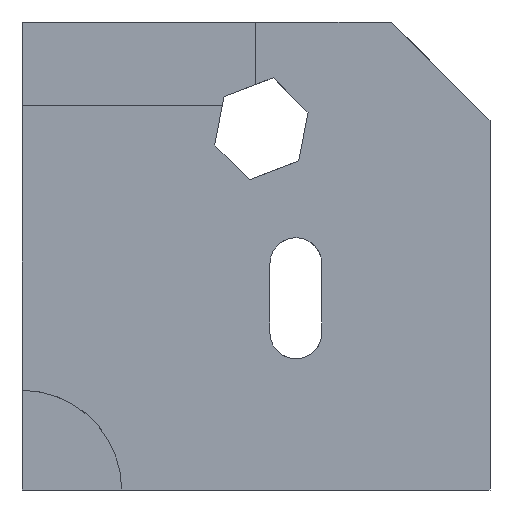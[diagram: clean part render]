
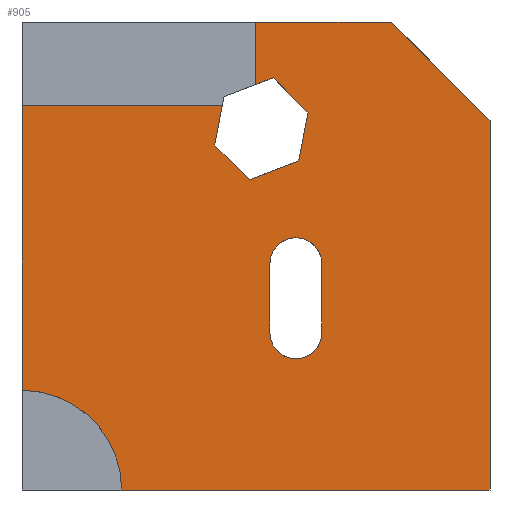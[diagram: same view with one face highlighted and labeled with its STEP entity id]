
A CAD part, left-side view. The second image highlights one B-rep face of the part: STEP entity #905.
In plain terms, the highlighted planar face has unit normal (-1, 0, 0).
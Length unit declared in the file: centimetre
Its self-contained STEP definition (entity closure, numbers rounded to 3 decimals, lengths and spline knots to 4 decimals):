
#25 = PLANE ( 'NONE',  #35 ) ;
#35 = AXIS2_PLACEMENT_3D ( 'NONE', #565, #1661, #429 ) ;
#56 = LINE ( 'NONE', #1016, #941 ) ;
#60 = AXIS2_PLACEMENT_3D ( 'NONE', #189, #1671, #835 ) ;
#66 = EDGE_CURVE ( 'NONE', #1398, #1665, #1485, .T. ) ;
#70 = ORIENTED_EDGE ( 'NONE', *, *, #1266, .T. ) ;
#75 = EDGE_CURVE ( 'NONE', #1755, #416, #791, .T. ) ;
#85 = DIRECTION ( 'NONE',  ( 0., 0.187, -0.982 ) ) ;
#94 = VERTEX_POINT ( 'NONE', #227 ) ;
#100 = EDGE_CURVE ( 'NONE', #1516, #1138, #1117, .T. ) ;
#107 = CARTESIAN_POINT ( 'NONE',  ( 0., 0., 0. ) ) ;
#112 = DIRECTION ( 'NONE',  ( 0., -1., 0. ) ) ;
#124 = DIRECTION ( 'NONE',  ( 0., -0.707, -0.707 ) ) ;
#126 = EDGE_CURVE ( 'NONE', #416, #483, #802, .T. ) ;
#182 = ORIENTED_EDGE ( 'NONE', *, *, #75, .F. ) ;
#189 = CARTESIAN_POINT ( 'NONE',  ( 0., 414.7637, 335.3385 ) ) ;
#198 = CARTESIAN_POINT ( 'NONE',  ( 0., 359.3868, 335.3385 ) ) ;
#218 = ORIENTED_EDGE ( 'NONE', *, *, #1700, .F. ) ;
#221 = VECTOR ( 'NONE', #1380, 100. ) ;
#227 = CARTESIAN_POINT ( 'NONE',  ( 0., 1000., 821.3095 ) ) ;
#258 = ORIENTED_EDGE ( 'NONE', *, *, #1212, .T. ) ;
#259 = VERTEX_POINT ( 'NONE', #708 ) ;
#261 = DIRECTION ( 'NONE',  ( 0., -1., 0. ) ) ;
#271 = CARTESIAN_POINT ( 'NONE',  ( 0., 501.1624, 866.4709 ) ) ;
#283 = ORIENTED_EDGE ( 'NONE', *, *, #324, .T. ) ;
#291 = FACE_BOUND ( 'NONE', #725, .T. ) ;
#310 = CARTESIAN_POINT ( 'NONE',  ( 0., 408.5966, 703. ) ) ;
#311 = VECTOR ( 'NONE', #529, 100. ) ;
#324 = EDGE_CURVE ( 'NONE', #662, #1516, #1004, .T. ) ;
#358 = EDGE_CURVE ( 'NONE', #759, #1721, #365, .T. ) ;
#365 = LINE ( 'NONE', #922, #1119 ) ;
#372 = DIRECTION ( 'NONE',  ( 1., 0., 0. ) ) ;
#399 = DIRECTION ( 'NONE',  ( 0., 0., 1. ) ) ;
#401 = LINE ( 'NONE', #1749, #1050 ) ;
#412 = ORIENTED_EDGE ( 'NONE', *, *, #1488, .T. ) ;
#416 = VERTEX_POINT ( 'NONE', #633 ) ;
#423 = ORIENTED_EDGE ( 'NONE', *, *, #1411, .T. ) ;
#424 = VECTOR ( 'NONE', #848, 100. ) ;
#426 = VECTOR ( 'NONE', #85, 100. ) ;
#429 = DIRECTION ( 'NONE',  ( 0., 0., -1. ) ) ;
#466 = CARTESIAN_POINT ( 'NONE',  ( 0., 572.006, 821.3095 ) ) ;
#474 = ORIENTED_EDGE ( 'NONE', *, *, #126, .F. ) ;
#483 = VERTEX_POINT ( 'NONE', #1416 ) ;
#499 = DIRECTION ( 'NONE',  ( -1., 0., 0. ) ) ;
#516 = LINE ( 'NONE', #873, #855 ) ;
#529 = DIRECTION ( 'NONE',  ( 0., 0., 1. ) ) ;
#565 = CARTESIAN_POINT ( 'NONE',  ( 0., 1000., 1000. ) ) ;
#591 = CARTESIAN_POINT ( 'NONE',  ( 0., 470.1405, 483.6695 ) ) ;
#598 = CARTESIAN_POINT ( 'NONE',  ( 0., 501.1624, 1000. ) ) ;
#604 = EDGE_CURVE ( 'NONE', #1721, #1578, #516, .T. ) ;
#615 = DIRECTION ( 'NONE',  ( 0., 0.707, 0.707 ) ) ;
#617 = CARTESIAN_POINT ( 'NONE',  ( 0., 470.1405, 483.6695 ) ) ;
#633 = CARTESIAN_POINT ( 'NONE',  ( 0., 588.0385, 737.207 ) ) ;
#636 = ORIENTED_EDGE ( 'NONE', *, *, #1545, .T. ) ;
#639 = DIRECTION ( 'NONE',  ( 0., 0.934, -0.357 ) ) ;
#641 = DIRECTION ( 'NONE',  ( 0., 0., 1. ) ) ;
#650 = CARTESIAN_POINT ( 'NONE',  ( 0., 414.7637, 335.3385 ) ) ;
#662 = VERTEX_POINT ( 'NONE', #815 ) ;
#663 = ORIENTED_EDGE ( 'NONE', *, *, #1105, .F. ) ;
#672 = CARTESIAN_POINT ( 'NONE',  ( 0., 359.3868, 335.3385 ) ) ;
#708 = CARTESIAN_POINT ( 'NONE',  ( 0., 786.9848, 0. ) ) ;
#716 = AXIS2_PLACEMENT_3D ( 'NONE', #1292, #499, #1042 ) ;
#722 = CARTESIAN_POINT ( 'NONE',  ( 0., 1000., 1000. ) ) ;
#723 = VECTOR ( 'NONE', #1296, 100. ) ;
#725 = EDGE_LOOP ( 'NONE', ( #283, #1392, #1277, #258, #636 ) ) ;
#738 = AXIS2_PLACEMENT_3D ( 'NONE', #1605, #372, #399 ) ;
#759 = VERTEX_POINT ( 'NONE', #1217 ) ;
#784 = EDGE_LOOP ( 'NONE', ( #182, #423, #70, #1509, #412, #663, #1334, #1159, #1567, #1008, #1037, #218, #1693, #474 ) ) ;
#791 = LINE ( 'NONE', #1759, #426 ) ;
#802 = LINE ( 'NONE', #1363, #880 ) ;
#805 = CARTESIAN_POINT ( 'NONE',  ( 0., 1000., 0. ) ) ;
#814 = CARTESIAN_POINT ( 'NONE',  ( 0., 470.1405, 335.3385 ) ) ;
#815 = CARTESIAN_POINT ( 'NONE',  ( 0., 359.3868, 483.6695 ) ) ;
#820 = CARTESIAN_POINT ( 'NONE',  ( 0., 210.7965, 1000. ) ) ;
#835 = DIRECTION ( 'NONE',  ( 0., 0., 1. ) ) ;
#848 = DIRECTION ( 'NONE',  ( 0., 0., -1. ) ) ;
#855 = VECTOR ( 'NONE', #639, 100. ) ;
#865 = LINE ( 'NONE', #890, #1081 ) ;
#873 = CARTESIAN_POINT ( 'NONE',  ( 0., 463.2222, 880.9758 ) ) ;
#876 = VECTOR ( 'NONE', #1490, 100. ) ;
#880 = VECTOR ( 'NONE', #124, 100. ) ;
#881 = EDGE_CURVE ( 'NONE', #1138, #1118, #1262, .T. ) ;
#890 = CARTESIAN_POINT ( 'NONE',  ( 0., 501.1624, 821.3095 ) ) ;
#905 = ADVANCED_FACE ( 'NONE', ( #291, #1249 ), #25, .F. ) ;
#922 = CARTESIAN_POINT ( 'NONE',  ( 0., 388.8472, 806.6008 ) ) ;
#941 = VECTOR ( 'NONE', #615, 100. ) ;
#948 = VERTEX_POINT ( 'NONE', #617 ) ;
#1004 = LINE ( 'NONE', #198, #723 ) ;
#1008 = ORIENTED_EDGE ( 'NONE', *, *, #604, .F. ) ;
#1013 = EDGE_CURVE ( 'NONE', #259, #1712, #1553, .T. ) ;
#1016 = CARTESIAN_POINT ( 'NONE',  ( 0., 210.7965, 1000. ) ) ;
#1037 = ORIENTED_EDGE ( 'NONE', *, *, #358, .F. ) ;
#1042 = DIRECTION ( 'NONE',  ( 0., 0., 1. ) ) ;
#1050 = VECTOR ( 'NONE', #1607, 100. ) ;
#1054 = VECTOR ( 'NONE', #112, 100. ) ;
#1060 = LINE ( 'NONE', #805, #1260 ) ;
#1068 = EDGE_CURVE ( 'NONE', #483, #1074, #401, .T. ) ;
#1071 = LINE ( 'NONE', #1511, #876 ) ;
#1074 = VERTEX_POINT ( 'NONE', #1625 ) ;
#1080 = VECTOR ( 'NONE', #1519, 100. ) ;
#1081 = VECTOR ( 'NONE', #1448, 100. ) ;
#1087 = VERTEX_POINT ( 'NONE', #107 ) ;
#1100 = LINE ( 'NONE', #722, #424 ) ;
#1105 = EDGE_CURVE ( 'NONE', #1541, #1087, #1071, .T. ) ;
#1117 = CIRCLE ( 'NONE', #1357, 55.3768 ) ;
#1118 = VERTEX_POINT ( 'NONE', #814 ) ;
#1119 = VECTOR ( 'NONE', #1750, 100. ) ;
#1138 = VERTEX_POINT ( 'NONE', #1230 ) ;
#1141 = CIRCLE ( 'NONE', #738, 55.3768 ) ;
#1159 = ORIENTED_EDGE ( 'NONE', *, *, #66, .F. ) ;
#1212 = EDGE_CURVE ( 'NONE', #1118, #948, #1256, .T. ) ;
#1215 = CARTESIAN_POINT ( 'NONE',  ( 0., 501.1624, 821.3095 ) ) ;
#1217 = CARTESIAN_POINT ( 'NONE',  ( 0., 388.8472, 806.6008 ) ) ;
#1230 = CARTESIAN_POINT ( 'NONE',  ( 0., 414.7637, 279.9617 ) ) ;
#1249 = FACE_OUTER_BOUND ( 'NONE', #784, .T. ) ;
#1256 = LINE ( 'NONE', #591, #1080 ) ;
#1260 = VECTOR ( 'NONE', #261, 100. ) ;
#1262 = CIRCLE ( 'NONE', #60, 55.3768 ) ;
#1266 = EDGE_CURVE ( 'NONE', #94, #1712, #1100, .T. ) ;
#1277 = ORIENTED_EDGE ( 'NONE', *, *, #881, .T. ) ;
#1292 = CARTESIAN_POINT ( 'NONE',  ( 0., 1000., 0. ) ) ;
#1296 = DIRECTION ( 'NONE',  ( 0., 0., -1. ) ) ;
#1332 = DIRECTION ( 'NONE',  ( 1., 0., 0. ) ) ;
#1334 = ORIENTED_EDGE ( 'NONE', *, *, #1395, .T. ) ;
#1357 = AXIS2_PLACEMENT_3D ( 'NONE', #650, #1332, #641 ) ;
#1363 = CARTESIAN_POINT ( 'NONE',  ( 0., 588.0385, 737.207 ) ) ;
#1380 = DIRECTION ( 'NONE',  ( 0., -0.187, 0.982 ) ) ;
#1392 = ORIENTED_EDGE ( 'NONE', *, *, #100, .T. ) ;
#1395 = EDGE_CURVE ( 'NONE', #1541, #1665, #56, .T. ) ;
#1398 = VERTEX_POINT ( 'NONE', #598 ) ;
#1411 = EDGE_CURVE ( 'NONE', #1755, #94, #865, .T. ) ;
#1416 = CARTESIAN_POINT ( 'NONE',  ( 0., 513.6634, 662.8319 ) ) ;
#1448 = DIRECTION ( 'NONE',  ( 0., 1., 0. ) ) ;
#1485 = LINE ( 'NONE', #1595, #1054 ) ;
#1488 = EDGE_CURVE ( 'NONE', #259, #1087, #1060, .T. ) ;
#1490 = DIRECTION ( 'NONE',  ( 0., 0., -1. ) ) ;
#1499 = LINE ( 'NONE', #1215, #311 ) ;
#1509 = ORIENTED_EDGE ( 'NONE', *, *, #1013, .F. ) ;
#1510 = CARTESIAN_POINT ( 'NONE',  ( 0., 0., 789.2035 ) ) ;
#1511 = CARTESIAN_POINT ( 'NONE',  ( 0., 0., 1000. ) ) ;
#1516 = VERTEX_POINT ( 'NONE', #672 ) ;
#1518 = CARTESIAN_POINT ( 'NONE',  ( 0., 1000., 213.0152 ) ) ;
#1519 = DIRECTION ( 'NONE',  ( 0., 0., 1. ) ) ;
#1524 = CARTESIAN_POINT ( 'NONE',  ( 0., 463.2222, 880.9758 ) ) ;
#1541 = VERTEX_POINT ( 'NONE', #1510 ) ;
#1545 = EDGE_CURVE ( 'NONE', #948, #662, #1141, .T. ) ;
#1553 = CIRCLE ( 'NONE', #716, 213.0152 ) ;
#1567 = ORIENTED_EDGE ( 'NONE', *, *, #1582, .F. ) ;
#1578 = VERTEX_POINT ( 'NONE', #271 ) ;
#1582 = EDGE_CURVE ( 'NONE', #1578, #1398, #1499, .T. ) ;
#1595 = CARTESIAN_POINT ( 'NONE',  ( 0., 1000., 1000. ) ) ;
#1605 = CARTESIAN_POINT ( 'NONE',  ( 0., 414.7637, 483.6695 ) ) ;
#1607 = DIRECTION ( 'NONE',  ( 0., -0.934, 0.357 ) ) ;
#1625 = CARTESIAN_POINT ( 'NONE',  ( 0., 408.5966, 703. ) ) ;
#1661 = DIRECTION ( 'NONE',  ( 1., 0., 0. ) ) ;
#1665 = VERTEX_POINT ( 'NONE', #820 ) ;
#1671 = DIRECTION ( 'NONE',  ( 1., 0., 0. ) ) ;
#1674 = LINE ( 'NONE', #310, #221 ) ;
#1693 = ORIENTED_EDGE ( 'NONE', *, *, #1068, .F. ) ;
#1700 = EDGE_CURVE ( 'NONE', #1074, #759, #1674, .T. ) ;
#1712 = VERTEX_POINT ( 'NONE', #1518 ) ;
#1721 = VERTEX_POINT ( 'NONE', #1524 ) ;
#1749 = CARTESIAN_POINT ( 'NONE',  ( 0., 513.6634, 662.8319 ) ) ;
#1750 = DIRECTION ( 'NONE',  ( 0., 0.707, 0.707 ) ) ;
#1755 = VERTEX_POINT ( 'NONE', #466 ) ;
#1759 = CARTESIAN_POINT ( 'NONE',  ( 0., 568.289, 840.8078 ) ) ;
